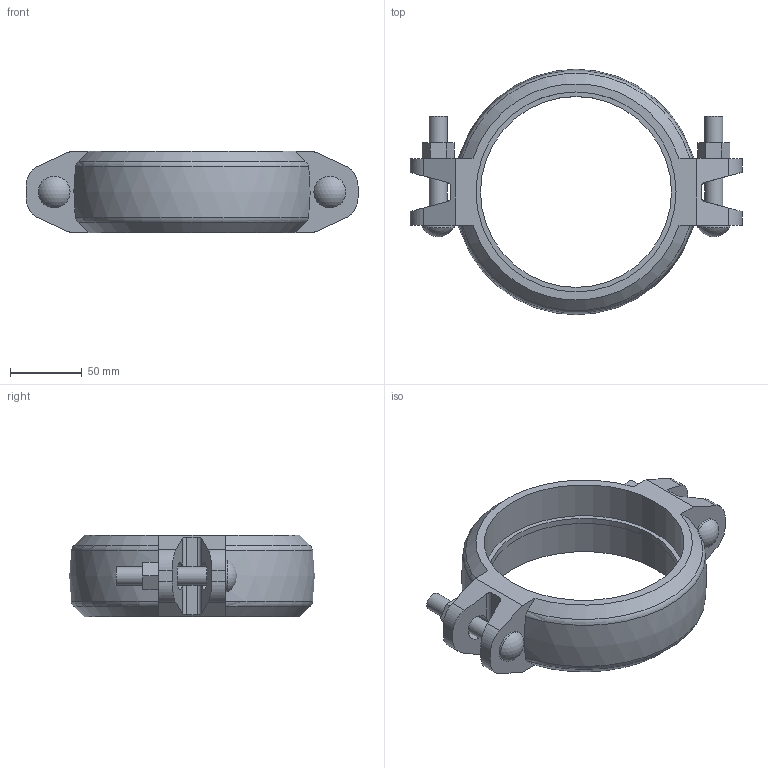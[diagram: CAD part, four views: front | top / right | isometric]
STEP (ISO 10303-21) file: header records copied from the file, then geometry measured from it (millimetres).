
FILE_DESCRIPTION(/* description */ ('VICTAULIC STYLE 009N FIRELOCK EZ RIGID COUPLING','CAx-IF Rec.Pracs.---Representation and Presentation of Product Manufacturing Information (PMI)---4.0---2014-10-13'),/* implementation_level */ '2;1');
FILE_NAME(/* name */ 'C:\Users\Vjadhav\AppData\Roaming\Autodesk\ApplicationPlugins\Victaulic.Temp\A361\Victaulic_FP-FireLock_Coupling Rigid_IR_Style 009N (OGS)_05.0 (139.7) (125).stp',/* time_stamp */ '2022-03-23T18:55:15+05:00',/* author */ ('Vjadhav'),/* organization */ ('Victaulic'),/* preprocessor_version */ 'ST-DEVELOPER v17.2',/* originating_system */ 'Autodesk Inventor 2019',/* authorisation */ '');
FILE_SCHEMA (('AP242_MANAGED_MODEL_BASED_3D_ENGINEERING_MIM_LF { 1 0 10303 442 1 1 4 }'));
Length unit declared in the file: inch
Products named in the file (2): 009N-05.0 (139.7); 009N-05.0 (139.7)_1
Assembly tree (1 placements, depth 2):
  009N-05.0 (139.7)
    009N-05.0 (139.7)_1
Bounding box: 231.9 x 171.45 x 57.15 mm (x, y, z)
Volume: 491407.2 mm3; surface area: 89370.5 mm2
Topology: 1 solids, 1 shells, 91 faces, 263 edges, 178 vertices
Faces by surface type: plane 50, cylinder 29, cone 4, torus 4, sphere 2, bspline 2
Full cylindrical faces by diameter (mm): 12.7 x4, 22.225 x2, 133.35 x1, 139.7 x2
Entity records: 3359 total; most frequent: CARTESIAN_POINT 743, ORIENTED_EDGE 526, DIRECTION 505, EDGE_CURVE 263, VERTEX_POINT 178, AXIS2_PLACEMENT_3D 178, LINE 149, VECTOR 149
